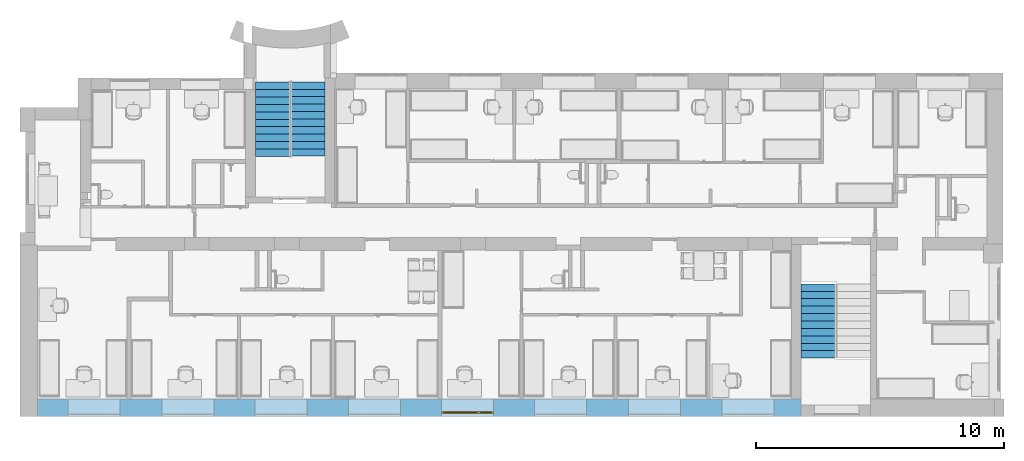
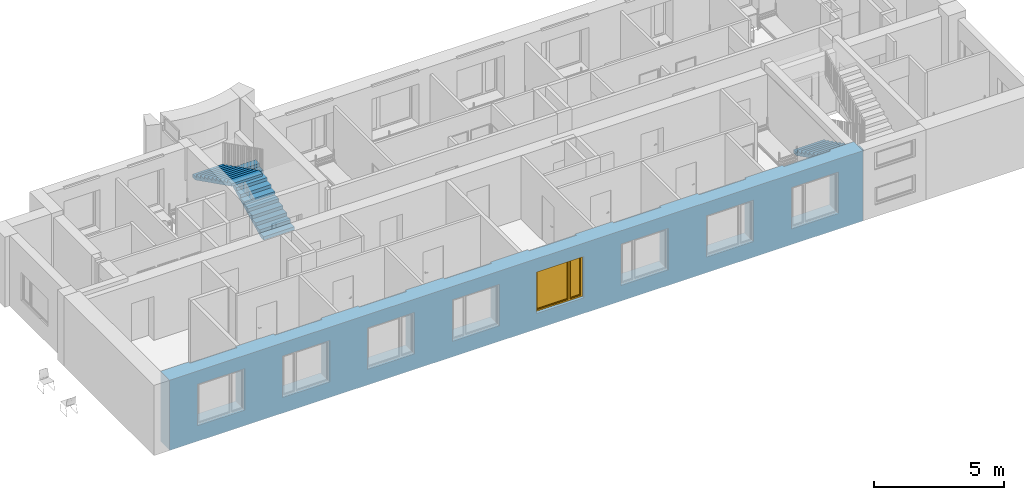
# One storey, part 17 of 48: 3 stair flights, 1 window, 11 openings, 3 elements without a shape of their own, plus 1 element that does not belong to this part.
"""IFC2X3 building model written with IfcOpenShell, lengths in millimetres."""

from ifc_helpers import new_model, entity, si_unit, converted_unit, derived_unit, direction, frame, frame_2d, origin, place, context, subcontext, project, spatial, rectangle, extrude, faceted_brep, source, transform, mapped, material, material_list, layer, layer_set, layer_usage, type_object, type_shapes, element, fill, aggregate, save


model = new_model("IFC2X3")

# Units and contexts
model_context = context("Model", 3, precision=0.01, world=origin(), true_north=direction((6.12303176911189e-17, 1.0)))
body_context = subcontext(model_context, "Body", "Model", "MODEL_VIEW")
ifc_project = project(units=[si_unit("LENGTHUNIT", "METRE", prefix="MILLI"), si_unit("AREAUNIT", "SQUARE_METRE"), si_unit("VOLUMEUNIT", "CUBIC_METRE"), converted_unit("PLANEANGLEUNIT", "DEGREE", entity("IfcRatioMeasure", 0.0174532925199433), si_unit("PLANEANGLEUNIT", "RADIAN"), dimensions=[0, 0, 0, 0, 0, 0, 0]), si_unit("MASSUNIT", "GRAM", prefix="KILO"), derived_unit("MASSDENSITYUNIT", [(si_unit("MASSUNIT", "GRAM", prefix="KILO"), 1), (si_unit("LENGTHUNIT", "METRE"), -3)]), si_unit("TIMEUNIT", "SECOND"), si_unit("FREQUENCYUNIT", "HERTZ"), si_unit("THERMODYNAMICTEMPERATUREUNIT", "DEGREE_CELSIUS"), derived_unit("THERMALTRANSMITTANCEUNIT", [(si_unit("MASSUNIT", "GRAM", prefix="KILO"), 1), (si_unit("THERMODYNAMICTEMPERATUREUNIT", "KELVIN"), -1), (si_unit("TIMEUNIT", "SECOND"), -3)]), derived_unit("VOLUMETRICFLOWRATEUNIT", [(si_unit("LENGTHUNIT", "METRE"), 3), (si_unit("TIMEUNIT", "SECOND"), -1)]), si_unit("ELECTRICCURRENTUNIT", "AMPERE"), si_unit("ELECTRICVOLTAGEUNIT", "VOLT"), si_unit("POWERUNIT", "WATT"), si_unit("FORCEUNIT", "NEWTON", prefix="KILO"), si_unit("ILLUMINANCEUNIT", "LUX"), si_unit("LUMINOUSFLUXUNIT", "LUMEN"), si_unit("LUMINOUSINTENSITYUNIT", "CANDELA"), derived_unit("USERDEFINED", [(si_unit("MASSUNIT", "GRAM", prefix="KILO"), -1), (si_unit("LENGTHUNIT", "METRE"), -2), (si_unit("TIMEUNIT", "SECOND"), 3), (si_unit("LUMINOUSFLUXUNIT", "LUMEN"), 1)]), derived_unit("LINEARVELOCITYUNIT", [(si_unit("LENGTHUNIT", "METRE"), 1), (si_unit("TIMEUNIT", "SECOND"), -1)]), si_unit("PRESSUREUNIT", "PASCAL"), derived_unit("USERDEFINED", [(si_unit("LENGTHUNIT", "METRE"), -2), (si_unit("MASSUNIT", "GRAM", prefix="KILO"), 1), (si_unit("TIMEUNIT", "SECOND"), -2)]), derived_unit("LINEARFORCEUNIT", [(si_unit("MASSUNIT", "GRAM", prefix="KILO"), 1), (si_unit("LENGTHUNIT", "METRE"), 1), (si_unit("TIMEUNIT", "SECOND"), -2), (si_unit("LENGTHUNIT", "METRE"), -1)]), derived_unit("PLANARFORCEUNIT", [(si_unit("MASSUNIT", "GRAM", prefix="KILO"), 1), (si_unit("LENGTHUNIT", "METRE"), 1), (si_unit("TIMEUNIT", "SECOND"), -2), (si_unit("LENGTHUNIT", "METRE"), -2)])], contexts=[model_context])

# Site, building, storey
site_placement = place(None, origin())
site = spatial("IfcSite", under=ifc_project, at=site_placement, Name="Default", CompositionType="ELEMENT")
building_placement = place(site_placement, origin())
building = spatial("IfcBuilding", under=site, at=building_placement, Name="SMA ARH", CompositionType="ELEMENT")
storey_placement = place(building_placement, frame((0.0, 0.0, 3300.0)))
storey = spatial("IfcBuildingStorey", under=building, at=storey_placement, Name="2 Korrus", CompositionType="ELEMENT", Elevation=3299.99999999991)

# Wall, openings, window
ifc_material_1 = material(Name="_ol.olev sein")
ifc_layer = layer(ifc_material_1, 700.0)
ifc_layer_set = layer_set([ifc_layer], Name="Basic Wall:Generic - 700mm")
ifc_layer_usage = layer_usage(ifc_layer_set, "AXIS2", "POSITIVE", -350.0)
wall_type = type_object("IfcWallType", Name="Basic Wall:Generic - 700mm", PredefinedType="STANDARD", material=ifc_layer_set)
wall_placement = place(storey_placement, frame((0.0, -350.0, 0.0)))
wall = element("IfcWallStandardCase", 1, at=wall_placement, inside=storey, type_object=wall_type, material=ifc_layer_usage, Name="Basic Wall:Generic - 700mm", ObjectType="Basic Wall:Generic - 700mm", context=body_context, shape_type="SweptSolid", body=[
    extrude(rectangle(XDim=30810.698001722, YDim=700.0, at=frame_2d((15405.349000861, -5.6843418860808e-14), x_axis=(-1.0, 0.0))), origin(), (0.0, 0.0, 1.0), 3299.99999999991),
])
opening_1_placement = place(wall_placement, origin())
element("IfcOpeningElement", 2, at=opening_1_placement, cuts=wall, Name="Basic Wall:Generic - 700mm", ObjectType="Recess", context=body_context, shape_type="SweptSolid", body=[
    extrude(rectangle(XDim=761.05, YDim=2098.41008000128, at=frame_2d((2.1600499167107e-12, 0.0), x_axis=(0.0, 1.0))), frame((28680.7949599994, 250.0, 319.475000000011), z_axis=(0.0, 1.0, 0.0), x_axis=(1.0, 0.0, 0.0)), (0.0, 0.0, 1.0), 100.0),
    extrude(rectangle(XDim=761.05, YDim=2098.41008000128, at=frame_2d((-2.1600499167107e-12, 0.0), x_axis=(0.0, 1.0))), frame((24895.7949599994, 250.0, 319.475000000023), z_axis=(0.0, 1.0, 0.0), x_axis=(1.0, 0.0, 0.0)), (0.0, 0.0, 1.0), 100.0),
    extrude(rectangle(XDim=761.05, YDim=2098.41008000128, at=frame_2d((-2.1600499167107e-12, 0.0), x_axis=(0.0, 1.0))), frame((21110.7949599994, 250.0, 319.475000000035), z_axis=(0.0, 1.0, 0.0), x_axis=(1.0, 0.0, 0.0)), (0.0, 0.0, 1.0), 100.0),
    extrude(rectangle(XDim=761.05, YDim=2098.41008000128, at=frame_2d((-2.1600499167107e-12, 0.0), x_axis=(0.0, 1.0))), frame((17355.7949599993, 250.0, 319.475000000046), z_axis=(0.0, 1.0, 0.0), x_axis=(1.0, 0.0, 0.0)), (0.0, 0.0, 1.0), 100.0),
    extrude(rectangle(XDim=761.05, YDim=2098.41008000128, at=frame_2d((2.1600499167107e-12, 0.0), x_axis=(0.0, 1.0))), frame((13610.7949599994, 250.0, 319.475000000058), z_axis=(0.0, 1.0, 0.0), x_axis=(1.0, 0.0, 0.0)), (0.0, 0.0, 1.0), 100.0),
    extrude(rectangle(XDim=761.05, YDim=2098.41008000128, at=frame_2d((0.0, 0.0), x_axis=(0.0, 1.0))), frame((9830.79495999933, 250.0, 319.47500000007), z_axis=(0.0, 1.0, 0.0), x_axis=(1.0, 0.0, 0.0)), (0.0, 0.0, 1.0), 100.0),
    extrude(rectangle(XDim=761.05, YDim=2098.41008000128, at=frame_2d((0.0, 0.0), x_axis=(0.0, 1.0))), frame((6070.79495999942, 250.0, 319.475000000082), z_axis=(0.0, 1.0, 0.0), x_axis=(1.0, 0.0, 0.0)), (0.0, 0.0, 1.0), 100.0),
    extrude(rectangle(XDim=761.05, YDim=2098.41008000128, at=frame_2d((1.13686837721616e-13, 0.0), x_axis=(0.0, 1.0))), frame((2290.79495999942, 250.0, 319.475000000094), z_axis=(0.0, 1.0, 0.0), x_axis=(1.0, 0.0, 0.0)), (0.0, 0.0, 1.0), 100.0),
    extrude(rectangle(XDim=761.05, YDim=2098.41008000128, at=frame_2d((-2.1600499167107e-12, 0.0), x_axis=(0.0, 1.0))), frame((28680.7949599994, 250.0, 3619.47500000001), z_axis=(0.0, 1.0, 0.0), x_axis=(1.0, 0.0, 0.0)), (0.0, 0.0, 1.0), 100.0),
    extrude(rectangle(XDim=761.05, YDim=2098.41008000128, at=frame_2d((2.1600499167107e-12, 0.0), x_axis=(0.0, 1.0))), frame((24915.7949599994, 250.0, 3619.47500000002), z_axis=(0.0, 1.0, 0.0), x_axis=(1.0, 0.0, 0.0)), (0.0, 0.0, 1.0), 100.0),
    extrude(rectangle(XDim=761.05, YDim=2098.41008000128, at=frame_2d((-2.1600499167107e-12, 0.0), x_axis=(0.0, 1.0))), frame((21130.7949599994, 250.0, 3619.47500000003), z_axis=(0.0, 1.0, 0.0), x_axis=(1.0, 0.0, 0.0)), (0.0, 0.0, 1.0), 100.0),
    extrude(rectangle(XDim=761.05, YDim=2098.41008000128, at=frame_2d((0.0, 0.0), x_axis=(0.0, 1.0))), frame((17370.7949599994, 250.0, 3619.47500000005), z_axis=(0.0, 1.0, 0.0), x_axis=(1.0, 0.0, 0.0)), (0.0, 0.0, 1.0), 100.0),
    extrude(rectangle(XDim=761.05, YDim=2098.41008000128, at=frame_2d((-2.1600499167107e-12, 0.0), x_axis=(0.0, 1.0))), frame((13610.7949599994, 250.0, 3619.47500000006), z_axis=(0.0, 1.0, 0.0), x_axis=(1.0, 0.0, 0.0)), (0.0, 0.0, 1.0), 100.0),
    extrude(rectangle(XDim=761.05, YDim=2098.41008000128, at=frame_2d((0.0, 0.0), x_axis=(0.0, 1.0))), frame((9830.79495999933, 250.0, 3619.47500000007), z_axis=(0.0, 1.0, 0.0), x_axis=(1.0, 0.0, 0.0)), (0.0, 0.0, 1.0), 100.0),
    extrude(rectangle(XDim=761.05, YDim=2098.41008000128, at=frame_2d((0.0, 0.0), x_axis=(0.0, 1.0))), frame((6070.79495999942, 250.0, 3619.47500000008), z_axis=(0.0, 1.0, 0.0), x_axis=(1.0, 0.0, 0.0)), (0.0, 0.0, 1.0), 100.0),
    extrude(rectangle(XDim=761.05, YDim=2098.41008000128, at=frame_2d((1.13686837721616e-13, 0.0), x_axis=(0.0, 1.0))), frame((2290.79495999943, 250.0, 3619.47500000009), z_axis=(0.0, 1.0, 0.0), x_axis=(1.0, 0.0, 0.0)), (0.0, 0.0, 1.0), 100.0),
])
opening_2_placement = place(wall_placement, origin())
element("IfcOpeningElement", 3, at=opening_2_placement, cuts=wall, Name="Basic Wall:Generic - 700mm", ObjectType="Opening", context=body_context, shape_type="SweptSolid", body=[
    extrude(rectangle(XDim=820.0, YDim=1800.0, at=frame_2d((0.0, 0.0), x_axis=(0.0, 1.0))), frame((32250.0, -1404.0, 960.0), z_axis=(0.0, 1.0, 0.0), x_axis=(-1.0, 0.0, 0.0)), (0.0, 0.0, 1.0), 3048.0),
])
opening_3_placement = place(wall_placement, origin())
element("IfcOpeningElement", 4, at=opening_3_placement, cuts=wall, Name="Basic Wall:Generic - 700mm", ObjectType="Opening", context=body_context, shape_type="SweptSolid", body=[
    extrude(rectangle(XDim=820.0, YDim=1800.0, at=frame_2d((4.32009983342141e-12, 0.0), x_axis=(0.0, 1.0))), frame((32210.0, -1404.0, 2620.0), z_axis=(0.0, 1.0, 0.0), x_axis=(-1.0, 0.0, 0.0)), (0.0, 0.0, 1.0), 3048.0),
])
opening_4_placement = place(wall_placement, frame((3340.0, 350.0, 730.0)))
element("IfcOpeningElement", 5, at=opening_4_placement, cuts=wall, Name="SMA_W2, 2-jaotus:A-00 - 2100x1900:1", ObjectType="Opening", context=body_context, shape_type="SweptSolid", body=[
    extrude(rectangle(XDim=1950.0, YDim=2100.0, at=frame_2d((975.0, 1050.0), x_axis=(1.0, 0.0))), frame((0.0, 0.0, 0.0), z_axis=(0.0, -1.0, 0.0), x_axis=(0.0, 0.0, 1.0)), (0.0, 0.0, 1.0), 700.0),
])
opening_5_placement = place(wall_placement, frame((7120.0, 350.0, 730.0)))
element("IfcOpeningElement", 6, at=opening_5_placement, cuts=wall, Name="SMA_W2, 2-jaotus:A-00 - 2100x1900:1", ObjectType="Opening", context=body_context, shape_type="SweptSolid", body=[
    extrude(rectangle(XDim=1950.0, YDim=2100.0, at=frame_2d((975.0, 1050.0), x_axis=(1.0, 0.0))), frame((0.0, 0.0, 0.0), z_axis=(0.0, -1.0, 0.0), x_axis=(0.0, 0.0, 1.0)), (0.0, 0.0, 1.0), 700.0),
])
opening_6_placement = place(wall_placement, frame((10880.0, 350.0, 730.0)))
element("IfcOpeningElement", 7, at=opening_6_placement, cuts=wall, Name="SMA_W2, 2-jaotus:A-00 - 2100x1900:1", ObjectType="Opening", context=body_context, shape_type="SweptSolid", body=[
    extrude(rectangle(XDim=1950.0, YDim=2100.0, at=frame_2d((975.0, 1050.0), x_axis=(1.0, 0.0))), frame((0.0, 0.0, 0.0), z_axis=(0.0, -1.0, 0.0), x_axis=(0.0, 0.0, 1.0)), (0.0, 0.0, 1.0), 700.0),
])
opening_7_placement = place(wall_placement, frame((14660.0, 350.0, 730.0)))
element("IfcOpeningElement", 8, at=opening_7_placement, cuts=wall, Name="SMA_W2, 2-jaotus:A-00 - 2100x1900:1", ObjectType="Opening", context=body_context, shape_type="SweptSolid", body=[
    extrude(rectangle(XDim=1950.0, YDim=2100.0, at=frame_2d((975.0, 1050.0), x_axis=(1.0, 0.0))), frame((0.0, 0.0, 0.0), z_axis=(0.0, -1.0, 0.0), x_axis=(0.0, 0.0, 1.0)), (0.0, 0.0, 1.0), 700.0),
])
opening_8_placement = place(wall_placement, frame((18405.0, 350.0, 730.0)))
opening_8 = element("IfcOpeningElement", 9, at=opening_8_placement, cuts=wall, Name="SMA_W2, 2-jaotus:A-00 - 2100x1900:1", ObjectType="Opening", context=body_context, shape_type="SweptSolid", body=[
    extrude(rectangle(XDim=1950.0, YDim=2100.0, at=frame_2d((975.0, 1050.0), x_axis=(1.0, 0.0))), frame((0.0, 0.0, 0.0), z_axis=(0.0, -1.0, 0.0), x_axis=(0.0, 0.0, 1.0)), (0.0, 0.0, 1.0), 700.0),
])
opening_9_placement = place(wall_placement, frame((22160.0, 350.0, 730.0)))
element("IfcOpeningElement", 10, at=opening_9_placement, cuts=wall, Name="SMA_W2, 2-jaotus:A-00 - 2100x1900:1", ObjectType="Opening", context=body_context, shape_type="SweptSolid", body=[
    extrude(rectangle(XDim=1950.0, YDim=2100.0, at=frame_2d((975.0, 1050.0), x_axis=(1.0, 0.0))), frame((0.0, 0.0, 0.0), z_axis=(0.0, -1.0, 0.0), x_axis=(0.0, 0.0, 1.0)), (0.0, 0.0, 1.0), 700.0),
])
opening_10_placement = place(wall_placement, frame((25945.0, 350.0, 730.0)))
element("IfcOpeningElement", 11, at=opening_10_placement, cuts=wall, Name="SMA_W2, 2-jaotus:A-00 - 2100x1900:1", ObjectType="Opening", context=body_context, shape_type="SweptSolid", body=[
    extrude(rectangle(XDim=1950.0, YDim=2100.0, at=frame_2d((975.0, 1050.0), x_axis=(1.0, 0.0))), frame((0.0, 0.0, 0.0), z_axis=(0.0, -1.0, 0.0), x_axis=(0.0, 0.0, 1.0)), (0.0, 0.0, 1.0), 700.0),
])
opening_11_placement = place(wall_placement, frame((29730.0, 350.0, 730.0)))
element("IfcOpeningElement", 12, at=opening_11_placement, cuts=wall, Name="SMA_W2, 2-jaotus:A-00 - 2100x1900:1", ObjectType="Opening", context=body_context, shape_type="SweptSolid", body=[
    extrude(rectangle(XDim=1950.0, YDim=2100.0, at=frame_2d((975.0, 1050.0), x_axis=(1.0, 0.0))), frame((0.0, 0.0, 0.0), z_axis=(0.0, -1.0, 0.0), x_axis=(0.0, 0.0, 1.0)), (0.0, 0.0, 1.0), 700.0),
])
ifc_material_2 = material(Name="Glass")
ifc_material_3 = material(Name="Hall")
ifc_material_list_1 = material_list([ifc_material_2, ifc_material_3])
ifc_material_4 = material(Name="<Unnamed>")
ifc_material_list_2 = material_list([ifc_material_3, ifc_material_4, ifc_material_4, ifc_material_2, ifc_material_3])
window_style = type_object("IfcWindowStyle", Name="SMA_W2, 2-jaotus:A-00 - 2100x1900", ConstructionType="NOTDEFINED", OperationType="NOTDEFINED", ParameterTakesPrecedence=False, Sizeable=False, material=ifc_material_list_2)
shared_shape = source(origin(), body_context, "Body", "Brep", [
    faceted_brep([(1995.0, 520.0, 1845.0), (660.0, 520.0, 1845.0), (660.0, 520.0, 105.0), (1995.0, 520.0, 105.0), (1995.0, 540.0, 105.0), (1995.0, 540.0, 1845.0), (660.0, 540.0, 105.0), (660.0, 540.0, 1845.0)], [[[0, 1, 2, 3]], [[3, 4, 5, 0]], [[2, 6, 4, 3]], [[1, 7, 6, 2]], [[5, 4, 6, 7]], [[0, 5, 7, 1]]]),
    faceted_brep([(520.0, 520.0, 105.0), (520.0, 520.0, 1845.0), (105.0, 520.0, 1845.0), (105.0, 520.0, 105.0), (105.0, 540.0, 105.0), (520.0, 540.0, 105.0), (105.0, 540.0, 1845.0), (520.0, 540.0, 1845.0)], [[[0, 1, 2, 3]], [[3, 4, 5, 0]], [[2, 6, 4, 3]], [[0, 5, 7, 1]], [[5, 4, 6, 7]], [[1, 7, 6, 2]]]),
    faceted_brep([(2065.0, 505.0, 35.0), (2065.0, 505.0, 1915.0), (590.0, 505.0, 1915.0), (590.0, 505.0, 35.0), (660.0, 505.0, 1845.0), (1995.0, 505.0, 1845.0), (1995.0, 505.0, 105.0), (660.0, 505.0, 105.0), (590.0, 555.0, 35.0), (2065.0, 555.0, 35.0), (590.0, 555.0, 1915.0), (2065.0, 555.0, 1915.0), (660.0, 555.0, 105.0), (660.0, 555.0, 1845.0), (1995.0, 555.0, 105.0), (1995.0, 555.0, 1845.0)], [[[0, 1, 2, 3], [4, 5, 6, 7]], [[3, 8, 9, 0]], [[2, 10, 8, 3]], [[0, 9, 11, 1]], [[7, 12, 13, 4]], [[6, 14, 12, 7]], [[5, 15, 14, 6]], [[9, 8, 10, 11], [13, 12, 14, 15]], [[1, 11, 10, 2]], [[4, 13, 15, 5]]]),
    faceted_brep([(590.0, 505.0, 35.0), (590.0, 505.0, 1915.0), (35.0, 505.0, 1915.0), (35.0, 505.0, 35.0), (105.0, 505.0, 1845.0), (520.0, 505.0, 1845.0), (520.0, 505.0, 105.0), (105.0, 505.0, 105.0), (35.0, 555.0, 35.0), (590.0, 555.0, 35.0), (35.0, 555.0, 1915.0), (590.0, 555.0, 1915.0), (105.0, 555.0, 105.0), (105.0, 555.0, 1845.0), (520.0, 555.0, 105.0), (520.0, 555.0, 1845.0)], [[[0, 1, 2, 3], [4, 5, 6, 7]], [[3, 8, 9, 0]], [[2, 10, 8, 3]], [[0, 9, 11, 1]], [[7, 12, 13, 4]], [[6, 14, 12, 7]], [[5, 15, 14, 6]], [[9, 8, 10, 11], [13, 12, 14, 15]], [[1, 11, 10, 2]], [[4, 13, 15, 5]]]),
    faceted_brep([(35.0, 530.0, 35.0), (35.0, 530.0, 1915.0), (590.0, 530.0, 1915.0), (590.0, 530.0, 35.0), (2030.0, 530.0, 1880.0), (2030.0, 530.0, 70.0), (625.0, 530.0, 70.0), (625.0, 530.0, 1880.0), (2100.0, 530.0, 0.0), (2100.0, 530.0, 1950.0), (0.0, 530.0, 1950.0), (0.0, 530.0, 0.0), (0.0, 580.0, 0.0), (2100.0, 580.0, 0.0), (0.0, 580.0, 1950.0), (2100.0, 580.0, 1950.0), (625.0, 580.0, 70.0), (625.0, 580.0, 1880.0), (2030.0, 580.0, 70.0), (2030.0, 580.0, 1880.0), (35.0, 555.0, 35.0), (590.0, 555.0, 35.0), (590.0, 555.0, 1915.0), (35.0, 555.0, 1915.0), (555.0, 580.0, 1880.0), (70.0, 580.0, 1880.0), (70.0, 580.0, 70.0), (555.0, 580.0, 70.0), (555.0, 555.0, 70.0), (555.0, 555.0, 1880.0), (70.0, 555.0, 70.0), (70.0, 555.0, 1880.0)], [[[0, 1, 2, 3], [4, 5, 6, 7], [8, 9, 10, 11]], [[11, 12, 13, 8]], [[10, 14, 12, 11]], [[8, 13, 15, 9]], [[6, 16, 17, 7]], [[5, 18, 16, 6]], [[4, 19, 18, 5]], [[20, 0, 3, 21]], [[21, 3, 2, 22]], [[23, 1, 0, 20]], [[13, 12, 14, 15], [19, 17, 16, 18], [24, 25, 26, 27]], [[27, 28, 29, 24]], [[26, 30, 28, 27]], [[25, 31, 30, 26]], [[21, 22, 23, 20], [29, 28, 30, 31]], [[9, 15, 14, 10]], [[7, 17, 19, 4]], [[22, 2, 1, 23]], [[24, 29, 31, 25]]], outer=[[False, False, True], [True], [True], [True], [True], [True], [True], [True], [True], [True], [True, False, False], [True], [True], [True], [True, False], [True], [True], [True], [True]]),
])
type_shapes(window_style, [shared_shape])
window_placement = place(opening_8_placement, frame((0.0, 0.0, 0.0), z_axis=(0.0, 0.0, 1.0), x_axis=(-1.0, 0.0, 0.0)))
window = element("IfcWindow", 13, at=window_placement, inside=storey, type_object=window_style, material=ifc_material_list_1, Name="SMA_W2, 2-jaotus:A-00 - 2100x1900", ObjectType="SMA_W2, 2-jaotus:A-00 - 2100x1900", OverallHeight=1950.0, OverallWidth=2100.0, context=body_context, shape_type="MappedRepresentation", body=[
    mapped(shared_shape, transform((0.0, 0.0, 0.0), scale=1.0)),
])
fill(opening_8, window)

# Stair, stair flight
stair_1_placement = place(storey_placement, origin())
stair_1 = element("IfcStair", 14, at=stair_1_placement, inside=storey, Name="Cast-In-Place Stair:Stair", ObjectType="Cast-In-Place Stair:Cast-In-Place Stair", ShapeType="STRAIGHT_RUN_STAIR")
ifc_material_5 = material(Name="EST. Betoon. Armeeritud. Monteeritav(1)")
stair_flight_type_1 = type_object("IfcStairFlightType", Name="Monolithic Run:Monolithic Run", PredefinedType="STRAIGHT")
stair_flight_1_placement = place(stair_1_placement, frame((10240.0, 9798.47088682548, 0.0)))
stair_flight_1 = element("IfcStairFlight", 15, at=stair_flight_1_placement, type_object=stair_flight_type_1, material=ifc_material_5, Name="Cast-In-Place Stair:Stair:912326 Run 1", ObjectType="Monolithic Run:Monolithic Run", NumberOfRiser=11, NumberOfTreads=10, RiserHeight=0.489143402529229, TreadLength=0.984251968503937, context=body_context, shape_type="Brep", body=[
    faceted_brep([(0.0, 300.0, 79.0909090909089), (0.0, 0.0, 79.0909090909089), (1375.0, 0.0, 79.0909090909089), (1375.0, 300.0, 79.0909090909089), (0.0, 300.0, -32.5772994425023), (0.0, 224.698224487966, -70.0), (0.0, 0.0, -70.0), (1375.0, 0.0, -70.0), (1375.0, 224.698224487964, -70.0), (1375.0, 300.0, -32.5772994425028), (0.0, 600.0, 228.181818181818), (0.0, 300.0, 228.181818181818), (1375.0, 300.0, 228.181818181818), (1375.0, 600.0, 228.181818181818), (0.0, 600.0, 116.51360964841), (1375.0, 600.0, 116.513609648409), (0.0, 900.0, 377.272727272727), (0.0, 600.0, 377.272727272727), (1375.0, 600.0, 377.272727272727), (1375.0, 900.0, 377.272727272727), (0.0, 900.0, 265.604518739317), (1375.0, 900.0, 265.604518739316), (0.0, 1200.0, 526.363636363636), (0.0, 900.0, 526.363636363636), (1375.0, 900.0, 526.363636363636), (1375.0, 1200.0, 526.363636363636), (0.0, 1200.0, 414.695427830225), (1375.0, 1200.0, 414.695427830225), (0.0, 1500.0, 675.454545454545), (0.0, 1200.0, 675.454545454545), (1375.0, 1200.0, 675.454545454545), (1375.0, 1500.0, 675.454545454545), (0.0, 1500.0, 563.786336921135), (1375.0, 1500.0, 563.786336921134), (0.0, 1800.0, 824.545454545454), (0.0, 1500.0, 824.545454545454), (1375.0, 1500.0, 824.545454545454), (1375.0, 1800.0, 824.545454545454), (0.0, 1800.0, 712.877246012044), (1375.0, 1800.0, 712.877246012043), (0.0, 2100.0, 973.636363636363), (0.0, 1800.0, 973.636363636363), (1375.0, 1800.0, 973.636363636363), (1375.0, 2100.0, 973.636363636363), (0.0, 2100.0, 861.968155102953), (1375.0, 2100.0, 861.968155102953), (0.0, 2400.0, 1122.72727272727), (0.0, 2100.0, 1122.72727272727), (1375.0, 2100.0, 1122.72727272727), (1375.0, 2400.0, 1122.72727272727), (0.0, 2400.0, 1011.05906419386), (1375.0, 2400.0, 1011.05906419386), (0.0, 2700.0, 1271.81818181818), (0.0, 2400.0, 1271.81818181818), (1375.0, 2400.0, 1271.81818181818), (1375.0, 2700.0, 1271.81818181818), (0.0, 2700.0, 1160.14997328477), (1375.0, 2700.0, 1160.14997328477), (0.0, 3000.0, 1309.24088237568), (1375.0, 3000.0, 1309.24088237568), (0.0, 3000.0, 1420.90909090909), (0.0, 2700.0, 1420.90909090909), (1375.0, 2700.0, 1420.90909090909), (1375.0, 3000.0, 1420.90909090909), (0.0, 3000.0, 1370.0)], [[[0, 1, 2, 3]], [[1, 0, 4, 5, 6]], [[2, 1, 6, 7]], [[3, 2, 7, 8, 9]], [[10, 11, 12, 13]], [[11, 10, 14, 4, 0]], [[0, 3, 12, 11]], [[13, 12, 3, 9, 15]], [[16, 17, 18, 19]], [[17, 16, 20, 14, 10]], [[10, 13, 18, 17]], [[19, 18, 13, 15, 21]], [[22, 23, 24, 25]], [[23, 22, 26, 20, 16]], [[16, 19, 24, 23]], [[25, 24, 19, 21, 27]], [[28, 29, 30, 31]], [[29, 28, 32, 26, 22]], [[22, 25, 30, 29]], [[31, 30, 25, 27, 33]], [[34, 35, 36, 37]], [[35, 34, 38, 32, 28]], [[28, 31, 36, 35]], [[37, 36, 31, 33, 39]], [[40, 41, 42, 43]], [[41, 40, 44, 38, 34]], [[34, 37, 42, 41]], [[43, 42, 37, 39, 45]], [[46, 47, 48, 49]], [[47, 46, 50, 44, 40]], [[40, 43, 48, 47]], [[49, 48, 43, 45, 51]], [[52, 53, 54, 55]], [[53, 52, 56, 50, 46]], [[46, 49, 54, 53]], [[55, 54, 49, 51, 57]], [[7, 6, 5, 8]], [[8, 5, 4, 14, 20, 26, 32, 38, 44, 50, 56, 58, 59, 57, 51, 45, 39, 33, 27, 21, 15, 9]], [[60, 61, 62, 63]], [[61, 60, 64, 58, 56, 52]], [[52, 55, 62, 61]], [[63, 62, 55, 57, 59]], [[60, 63, 59, 58, 64]]]),
])
aggregate(stair_1, [stair_flight_1])

stair_2_placement = place(storey_placement, origin())
stair_2 = element("IfcStair", 16, at=stair_2_placement, inside=storey, Name="Cast-In-Place Stair:Stair", ObjectType="Cast-In-Place Stair:Cast-In-Place Stair", ShapeType="STRAIGHT_RUN_STAIR")
stair_flight_type_2 = type_object("IfcStairFlightType", Name="Monolithic Run:Monolithic Run", PredefinedType="STRAIGHT")
stair_flight_2_placement = place(stair_2_placement, frame((30810.0, 1650.0, 0.0)))
stair_flight_2 = element("IfcStairFlight", 17, at=stair_flight_2_placement, type_object=stair_flight_type_2, material=ifc_material_5, Name="Cast-In-Place Stair:Stair:915214 Run 1", ObjectType="Monolithic Run:Monolithic Run", NumberOfRiser=11, NumberOfTreads=10, RiserHeight=0.492125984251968, TreadLength=0.984251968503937, context=body_context, shape_type="Brep", body=[
    faceted_brep([(1375.0, 2700.0, 110.0), (1375.0, 3000.0, 110.0), (0.0, 3000.0, 110.0), (0.0, 2700.0, 110.0), (1375.0, 2700.0, -1.80339887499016), (1375.0, 2776.39320225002, -40.0), (1375.0, 3000.0, -40.0), (0.0, 3000.0, -40.0), (0.0, 2776.39320225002, -40.0), (0.0, 2700.0, -1.80339887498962), (1375.0, 2400.0, 260.0), (1375.0, 2700.0, 260.0), (0.0, 2700.0, 260.0), (0.0, 2400.0, 260.0), (1375.0, 2400.0, 148.196601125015), (0.0, 2400.0, 148.196601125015), (1375.0, 2100.0, 410.0), (1375.0, 2400.0, 410.0), (0.0, 2400.0, 410.0), (0.0, 2100.0, 410.0), (1375.0, 2100.0, 298.19660112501), (0.0, 2100.0, 298.19660112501), (1375.0, 1800.0, 560.0), (1375.0, 2100.0, 560.0), (0.0, 2100.0, 560.0), (0.0, 1800.0, 560.0), (1375.0, 1800.0, 448.19660112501), (0.0, 1800.0, 448.19660112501), (1375.0, 1500.0, 710.0), (1375.0, 1800.0, 710.0), (0.0, 1800.0, 710.0), (0.0, 1500.0, 710.0), (1375.0, 1500.0, 598.196601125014), (0.0, 1500.0, 598.196601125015), (1375.0, 1200.0, 860.0), (1375.0, 1500.0, 860.0), (0.0, 1500.0, 860.0), (0.0, 1200.0, 860.0), (1375.0, 1200.0, 748.19660112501), (0.0, 1200.0, 748.19660112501), (1375.0, 900.0, 1010.0), (1375.0, 1200.0, 1010.0), (0.0, 1200.0, 1010.0), (0.0, 900.0, 1010.0), (1375.0, 900.0, 898.19660112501), (0.0, 900.0, 898.19660112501), (1375.0, 600.0, 1160.0), (1375.0, 900.0, 1160.0), (0.0, 900.0, 1160.0), (0.0, 600.0, 1160.0), (1375.0, 600.0, 1048.19660112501), (0.0, 600.0, 1048.19660112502), (1375.0, 300.0, 1310.0), (1375.0, 600.0, 1310.0), (0.0, 600.0, 1310.0), (0.0, 300.0, 1310.0), (1375.0, 300.0, 1198.19660112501), (0.0, 300.0, 1198.19660112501), (1375.0, 0.0, 1348.19660112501), (0.0, 0.0, 1348.19660112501), (1375.0, 0.0, 1460.0), (1375.0, 300.0, 1460.0), (0.0, 300.0, 1460.0), (0.0, 0.0, 1460.0)], [[[0, 1, 2, 3]], [[1, 0, 4, 5, 6]], [[2, 1, 6, 7]], [[3, 2, 7, 8, 9]], [[10, 11, 12, 13]], [[11, 10, 14, 4, 0]], [[0, 3, 12, 11]], [[13, 12, 3, 9, 15]], [[16, 17, 18, 19]], [[17, 16, 20, 14, 10]], [[10, 13, 18, 17]], [[19, 18, 13, 15, 21]], [[22, 23, 24, 25]], [[23, 22, 26, 20, 16]], [[16, 19, 24, 23]], [[25, 24, 19, 21, 27]], [[28, 29, 30, 31]], [[29, 28, 32, 26, 22]], [[22, 25, 30, 29]], [[31, 30, 25, 27, 33]], [[34, 35, 36, 37]], [[35, 34, 38, 32, 28]], [[28, 31, 36, 35]], [[37, 36, 31, 33, 39]], [[40, 41, 42, 43]], [[41, 40, 44, 38, 34]], [[34, 37, 42, 41]], [[43, 42, 37, 39, 45]], [[46, 47, 48, 49]], [[47, 46, 50, 44, 40]], [[40, 43, 48, 47]], [[49, 48, 43, 45, 51]], [[52, 53, 54, 55]], [[53, 52, 56, 50, 46]], [[46, 49, 54, 53]], [[55, 54, 49, 51, 57]], [[7, 6, 5, 8]], [[8, 5, 4, 14, 20, 26, 32, 38, 44, 50, 56, 58, 59, 57, 51, 45, 39, 33, 27, 21, 15, 9]], [[60, 61, 62, 63]], [[61, 60, 58, 56, 52]], [[52, 55, 62, 61]], [[63, 62, 55, 57, 59]], [[60, 63, 59, 58]]]),
])
aggregate(stair_2, [stair_flight_2])

stair_3_placement = place(storey_placement, origin())
stair_3 = element("IfcStair", 18, at=stair_3_placement, inside=storey, Name="Cast-In-Place Stair:Stair", ObjectType="Cast-In-Place Stair:Cast-In-Place Stair", ShapeType="STRAIGHT_RUN_STAIR")
stair_flight_type_3 = type_object("IfcStairFlightType", Name="Monolithic Run:Monolithic Run", PredefinedType="NOTDEFINED")
stair_flight_3_placement = place(stair_3_placement, frame((8805.0, 9787.80572404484, 0.0)))
stair_flight_3 = element("IfcStairFlight", 19, at=stair_flight_3_placement, type_object=stair_flight_type_3, material=ifc_material_5, Name="Cast-In-Place Stair:Stair:1077753 Run 1", ObjectType="Monolithic Run:Monolithic Run", NumberOfRiser=11, NumberOfTreads=10, RiserHeight=0.492125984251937, TreadLength=0.984251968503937, context=body_context, shape_type="Brep", body=[
    faceted_brep([(1375.0, 2700.0, 1730.0), (1375.0, 3000.0, 1730.0), (0.0, 3000.0, 1730.0), (0.0, 2700.0, 1730.0), (1375.0, 2700.0, 1618.196601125), (1375.0, 2776.39320225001, 1580.0), (1375.0, 3000.0, 1580.0), (0.0, 3000.0, 1580.0), (0.0, 2776.39320225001, 1580.0), (0.0, 2700.0, 1618.196601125), (1375.0, 2400.0, 1880.0), (1375.0, 2700.0, 1880.0), (0.0, 2700.0, 1880.0), (0.0, 2400.0, 1880.0), (1375.0, 2400.0, 1768.19660112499), (0.0, 2400.0, 1768.196601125), (1375.0, 2100.0, 2030.0), (1375.0, 2400.0, 2030.0), (0.0, 2400.0, 2030.0), (0.0, 2100.0, 2030.0), (1375.0, 2100.0, 1918.19660112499), (0.0, 2100.0, 1918.19660112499), (1375.0, 1800.0, 2180.0), (1375.0, 2100.0, 2180.0), (0.0, 2100.0, 2180.0), (0.0, 1800.0, 2180.0), (1375.0, 1800.0, 2068.19660112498), (0.0, 1800.0, 2068.19660112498), (1375.0, 1500.0, 2330.0), (1375.0, 1800.0, 2330.0), (0.0, 1800.0, 2330.0), (0.0, 1500.0, 2330.0), (1375.0, 1500.0, 2218.19660112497), (0.0, 1500.0, 2218.19660112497), (1375.0, 1200.0, 2480.0), (1375.0, 1500.0, 2480.0), (0.0, 1500.0, 2480.0), (0.0, 1200.0, 2480.0), (1375.0, 1200.0, 2368.19660112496), (0.0, 1200.0, 2368.19660112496), (1375.0, 900.0, 2630.0), (1375.0, 1200.0, 2630.0), (0.0, 1200.0, 2630.0), (0.0, 900.0, 2630.0), (1375.0, 900.0, 2518.19660112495), (0.0, 900.0, 2518.19660112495), (1375.0, 600.0, 2780.0), (1375.0, 900.0, 2780.0), (0.0, 900.0, 2780.0), (0.0, 600.0, 2780.0), (1375.0, 600.0, 2668.19660112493), (0.0, 600.0, 2668.19660112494), (1375.0, 300.0, 2930.0), (1375.0, 600.0, 2930.0), (0.0, 600.0, 2930.0), (0.0, 300.0, 2930.0), (1375.0, 300.0, 2818.19660112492), (0.0, 300.0, 2818.19660112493), (1375.0, 0.0, 2968.19660112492), (0.0, 0.0, 2968.19660112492), (1375.0, 0.0, 3080.0), (1375.0, 300.0, 3080.0), (0.0, 300.0, 3080.0), (0.0, 0.0, 3080.0), (1375.0, 0.0, 3030.0)], [[[0, 1, 2, 3]], [[1, 0, 4, 5, 6]], [[2, 1, 6, 7]], [[3, 2, 7, 8, 9]], [[10, 11, 12, 13]], [[11, 10, 14, 4, 0]], [[0, 3, 12, 11]], [[13, 12, 3, 9, 15]], [[16, 17, 18, 19]], [[17, 16, 20, 14, 10]], [[10, 13, 18, 17]], [[19, 18, 13, 15, 21]], [[22, 23, 24, 25]], [[23, 22, 26, 20, 16]], [[16, 19, 24, 23]], [[25, 24, 19, 21, 27]], [[28, 29, 30, 31]], [[29, 28, 32, 26, 22]], [[22, 25, 30, 29]], [[31, 30, 25, 27, 33]], [[34, 35, 36, 37]], [[35, 34, 38, 32, 28]], [[28, 31, 36, 35]], [[37, 36, 31, 33, 39]], [[40, 41, 42, 43]], [[41, 40, 44, 38, 34]], [[34, 37, 42, 41]], [[43, 42, 37, 39, 45]], [[46, 47, 48, 49]], [[47, 46, 50, 44, 40]], [[40, 43, 48, 47]], [[49, 48, 43, 45, 51]], [[52, 53, 54, 55]], [[53, 52, 56, 50, 46]], [[46, 49, 54, 53]], [[55, 54, 49, 51, 57]], [[7, 6, 5, 8]], [[8, 5, 4, 14, 20, 26, 32, 38, 44, 50, 56, 58, 59, 57, 51, 45, 39, 33, 27, 21, 15, 9]], [[60, 61, 62, 63]], [[61, 60, 64, 58, 56, 52]], [[52, 55, 62, 61]], [[63, 62, 55, 57, 59]], [[60, 63, 59, 58, 64]]]),
])
aggregate(stair_3, [stair_flight_3])

save(model, "model.ifc")
